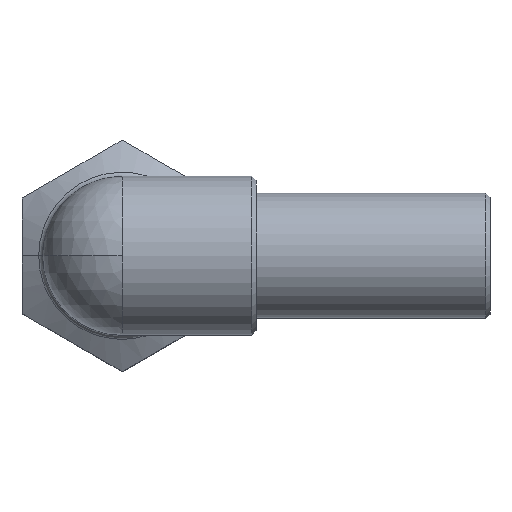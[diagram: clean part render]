
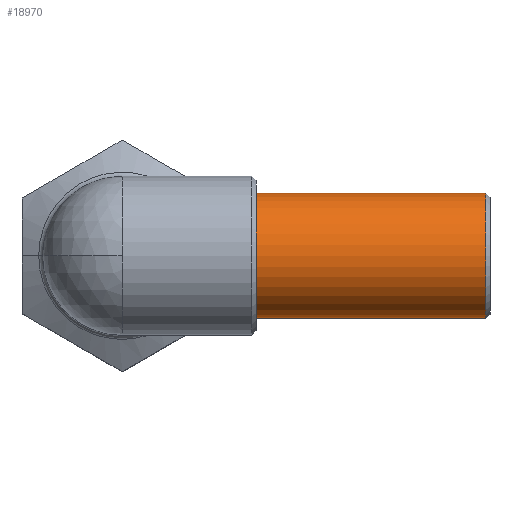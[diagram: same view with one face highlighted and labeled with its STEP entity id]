
A CAD part, top view. The second image highlights one B-rep face of the part: STEP entity #18970.
In plain terms, the highlighted cylindrical face has radius 7.5 mm (diameter 15 mm), a partial arc.
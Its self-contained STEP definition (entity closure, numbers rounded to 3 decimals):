
#12520=CARTESIAN_POINT('',(54.369,41.43,28.2));
#12530=DIRECTION('',(1.,0.,0.));
#12540=DIRECTION('',(0.,1.,0.));
#12550=AXIS2_PLACEMENT_3D('',#12520,#12530,#12540);
#12560=CIRCLE('',#12550,7.5);
#12570=CARTESIAN_POINT('',(54.369,48.93,28.2));
#12580=VERTEX_POINT('',#12570);
#12590=CARTESIAN_POINT('',(54.369,33.93,28.2));
#12600=VERTEX_POINT('',#12590);
#12610=EDGE_CURVE('',#12580,#12600,#12560,.T.);
#17660=CARTESIAN_POINT('',(54.369,41.43,28.2));
#17670=DIRECTION('',(1.,0.,0.));
#17680=DIRECTION('',(0.,1.,0.));
#17690=AXIS2_PLACEMENT_3D('',#17660,#17670,#17680);
#17700=CYLINDRICAL_SURFACE('',#17690,7.5);
#17710=CARTESIAN_POINT('',(54.369,48.93,28.2));
#17720=DIRECTION('',(1.,0.,0.));
#17730=VECTOR('',#17720,1.);
#17740=LINE('',#17710,#17730);
#17750=CARTESIAN_POINT('',(81.869,48.93,28.2));
#17760=VERTEX_POINT('',#17750);
#17770=EDGE_CURVE('',#12580,#17760,#17740,.T.);
#17800=CARTESIAN_POINT('',(54.369,33.93,28.2));
#17810=DIRECTION('',(1.,0.,0.));
#17820=VECTOR('',#17810,1.);
#17830=LINE('',#17800,#17820);
#17840=CARTESIAN_POINT('',(81.869,33.93,28.2));
#17850=VERTEX_POINT('',#17840);
#17860=EDGE_CURVE('',#12600,#17850,#17830,.T.);
#17880=CARTESIAN_POINT('',(81.869,41.43,28.2));
#17890=DIRECTION('',(1.,0.,0.));
#17900=DIRECTION('',(0.,-1.,0.));
#17910=AXIS2_PLACEMENT_3D('',#17880,#17890,#17900);
#17920=CIRCLE('',#17910,7.5);
#18700=EDGE_CURVE('',#17760,#17850,#17920,.T.);
#18910=ORIENTED_EDGE('',*,*,#18700,.F.);
#18920=ORIENTED_EDGE('',*,*,#17860,.T.);
#18930=ORIENTED_EDGE('',*,*,#12610,.T.);
#18940=ORIENTED_EDGE('',*,*,#17770,.F.);
#18950=EDGE_LOOP('',(#18940,#18930,#18920,#18910));
#18960=FACE_OUTER_BOUND('',#18950,.T.);
#18970=ADVANCED_FACE('',(#18960),#17700,.T.);
